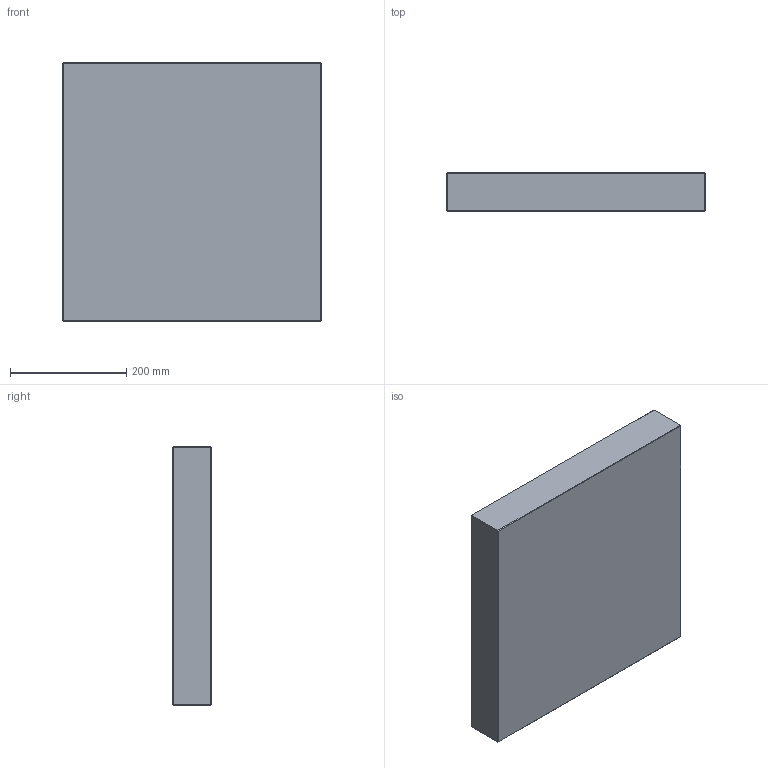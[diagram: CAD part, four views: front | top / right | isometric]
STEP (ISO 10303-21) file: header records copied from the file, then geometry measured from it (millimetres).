
FILE_DESCRIPTION (( 'STEP AP214' ), '1' );
FILE_NAME ('PC-P-446x446x66.STEP', '2020-04-01T11:06:37', ( 'August' ), ( '' ), 'SwSTEP 2.0', 'SolidWorks 2018', '' );
FILE_SCHEMA (( 'AUTOMOTIVE_DESIGN' ));
Length unit declared in the file: millimetre
Products named in the file (1): PC-P-446x446x66
Bounding box: 446 x 66 x 446 mm (x, y, z)
Volume: 13126545.3 mm3; surface area: 513328.3 mm2
Topology: 1 solids, 1 shells, 26 faces, 48 edges, 24 vertices
Faces by surface type: plane 26
Entity records: 634 total; most frequent: DIRECTION 102, CARTESIAN_POINT 99, ORIENTED_EDGE 96, VECTOR 48, EDGE_CURVE 48, LINE 48, AXIS2_PLACEMENT_3D 27, EDGE_LOOP 26
